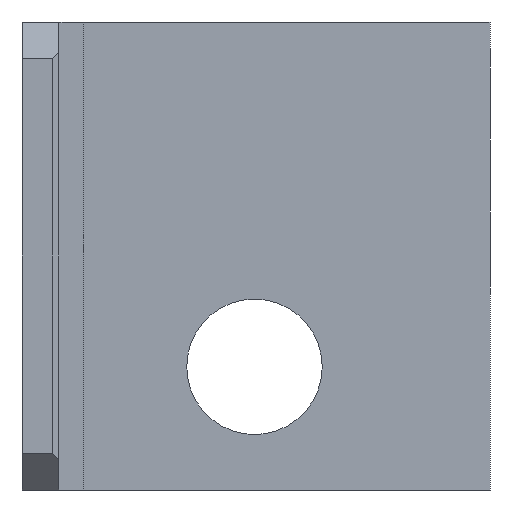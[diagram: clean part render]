
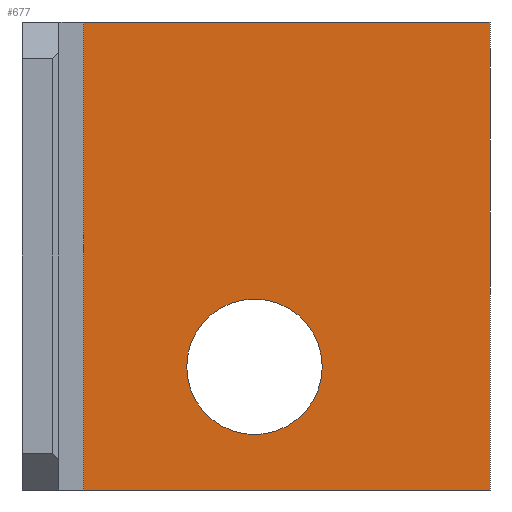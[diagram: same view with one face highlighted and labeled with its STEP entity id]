
A CAD part, front view. The second image highlights one B-rep face of the part: STEP entity #677.
In plain terms, the highlighted planar face has unit normal (0, -1, 0).
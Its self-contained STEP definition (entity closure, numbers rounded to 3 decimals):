
#12 = FACE_OUTER_BOUND ( 'NONE', #245, .T. ) ;
#16 = FACE_BOUND ( 'NONE', #248, .T. ) ;
#123 = CIRCLE ( 'NONE', #582, 5.5 ) ;
#202 = VECTOR ( 'NONE', #1207, 1000. ) ;
#204 = VECTOR ( 'NONE', #1208, 1000. ) ;
#206 = VECTOR ( 'NONE', #684, 1000. ) ;
#207 = LINE ( 'NONE', #1210, #204 ) ;
#208 = LINE ( 'NONE', #1215, #202 ) ;
#210 = CIRCLE ( 'NONE', #604, 5.5 ) ;
#215 = VECTOR ( 'NONE', #690, 1000. ) ;
#218 = LINE ( 'NONE', #685, #215 ) ;
#219 = LINE ( 'NONE', #1214, #206 ) ;
#245 = EDGE_LOOP ( 'NONE', ( #320, #321, #322, #323 ) ) ;
#248 = EDGE_LOOP ( 'NONE', ( #318, #319 ) ) ;
#318 = ORIENTED_EDGE ( 'NONE', *, *, #478, .T. ) ;
#319 = ORIENTED_EDGE ( 'NONE', *, *, #629, .T. ) ;
#320 = ORIENTED_EDGE ( 'NONE', *, *, #479, .T. ) ;
#321 = ORIENTED_EDGE ( 'NONE', *, *, #480, .F. ) ;
#322 = ORIENTED_EDGE ( 'NONE', *, *, #481, .F. ) ;
#323 = ORIENTED_EDGE ( 'NONE', *, *, #476, .T. ) ;
#411 = VERTEX_POINT ( 'NONE', #758 ) ;
#412 = VERTEX_POINT ( 'NONE', #754 ) ;
#421 = VERTEX_POINT ( 'NONE', #733 ) ;
#430 = VERTEX_POINT ( 'NONE', #715 ) ;
#438 = VERTEX_POINT ( 'NONE', #692 ) ;
#469 = VERTEX_POINT ( 'NONE', #696 ) ;
#476 = EDGE_CURVE ( 'NONE', #438, #412, #218, .T. ) ;
#478 = EDGE_CURVE ( 'NONE', #421, #411, #210, .T. ) ;
#479 = EDGE_CURVE ( 'NONE', #412, #430, #219, .T. ) ;
#480 = EDGE_CURVE ( 'NONE', #469, #430, #207, .T. ) ;
#481 = EDGE_CURVE ( 'NONE', #438, #469, #208, .T. ) ;
#531 = AXIS2_PLACEMENT_3D ( 'NONE', #769, #768, #767 ) ;
#582 = AXIS2_PLACEMENT_3D ( 'NONE', #950, #949, #948 ) ;
#604 = AXIS2_PLACEMENT_3D ( 'NONE', #1213, #1212, #1211 ) ;
#629 = EDGE_CURVE ( 'NONE', #411, #421, #123, .T. ) ;
#677 = ADVANCED_FACE ( 'NONE', ( #16, #12 ), #783, .F. ) ;
#684 = DIRECTION ( 'NONE',  ( 1., 0., 0. ) ) ;
#685 = CARTESIAN_POINT ( 'NONE',  ( 2., 0., 38. ) ) ;
#690 = DIRECTION ( 'NONE',  ( 0., 0., -1. ) ) ;
#692 = CARTESIAN_POINT ( 'NONE',  ( 2., 0., 38. ) ) ;
#696 = CARTESIAN_POINT ( 'NONE',  ( 35., 0., 38. ) ) ;
#715 = CARTESIAN_POINT ( 'NONE',  ( 35., 0., 0. ) ) ;
#733 = CARTESIAN_POINT ( 'NONE',  ( 15.875, 0., 15.5 ) ) ;
#754 = CARTESIAN_POINT ( 'NONE',  ( 2., 0., 0. ) ) ;
#758 = CARTESIAN_POINT ( 'NONE',  ( 15.875, 0., 4.5 ) ) ;
#767 = DIRECTION ( 'NONE',  ( -1., 0., 0. ) ) ;
#768 = DIRECTION ( 'NONE',  ( 0., 1., 0. ) ) ;
#769 = CARTESIAN_POINT ( 'NONE',  ( 35., 0., 38. ) ) ;
#783 = PLANE ( 'NONE',  #531 ) ;
#948 = DIRECTION ( 'NONE',  ( -1., 0., 0. ) ) ;
#949 = DIRECTION ( 'NONE',  ( 0., 1., 0. ) ) ;
#950 = CARTESIAN_POINT ( 'NONE',  ( 15.875, 0., 10. ) ) ;
#1207 = DIRECTION ( 'NONE',  ( 1., 0., 0. ) ) ;
#1208 = DIRECTION ( 'NONE',  ( 0., 0., -1. ) ) ;
#1210 = CARTESIAN_POINT ( 'NONE',  ( 35., 0., 38. ) ) ;
#1211 = DIRECTION ( 'NONE',  ( -1., 0., 0. ) ) ;
#1212 = DIRECTION ( 'NONE',  ( 0., 1., 0. ) ) ;
#1213 = CARTESIAN_POINT ( 'NONE',  ( 15.875, 0., 10. ) ) ;
#1214 = CARTESIAN_POINT ( 'NONE',  ( 35., 0., 0. ) ) ;
#1215 = CARTESIAN_POINT ( 'NONE',  ( 35., 0., 38. ) ) ;
